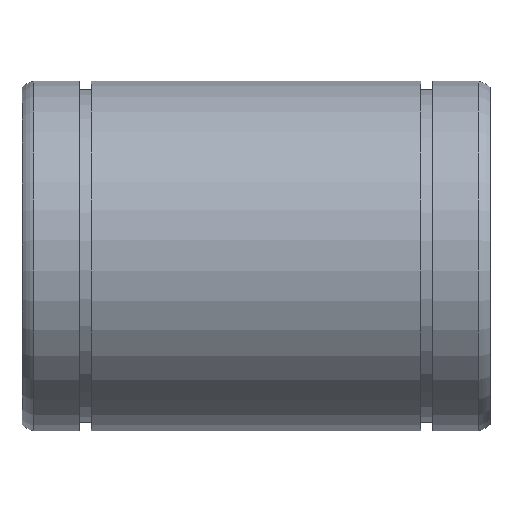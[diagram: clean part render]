
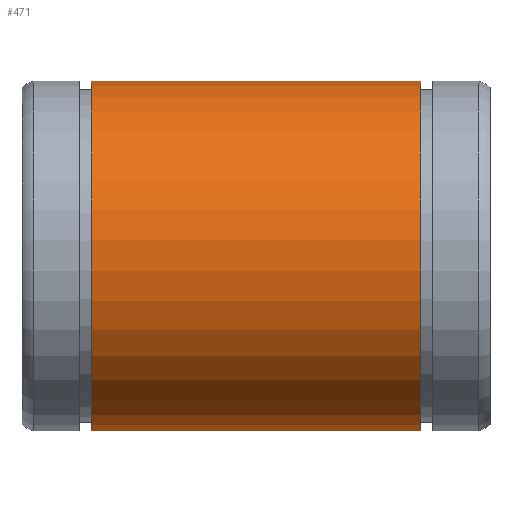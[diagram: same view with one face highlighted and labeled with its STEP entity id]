
A CAD part, top view. The second image highlights one B-rep face of the part: STEP entity #471.
In plain terms, the highlighted cylindrical face has radius 30 mm (diameter 60 mm), a partial arc.
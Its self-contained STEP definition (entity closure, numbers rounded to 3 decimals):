
#90=CARTESIAN_POINT('',(11.85,12.626,-27.214));
#91=VERTEX_POINT('',#90);
#98=CARTESIAN_POINT('',(68.15,12.626,-27.214));
#99=VERTEX_POINT('',#98);
#100=CARTESIAN_POINT('',(68.15,12.626,-27.214));
#101=DIRECTION('',(-1.0,0.0,0.0));
#102=VECTOR('',#101,56.3);
#103=LINE('',#100,#102);
#104=EDGE_CURVE('',#99,#91,#103,.T.);
#327=CARTESIAN_POINT('',(68.15,-12.626,-27.214));
#328=VERTEX_POINT('',#327);
#335=CARTESIAN_POINT('',(11.85,-12.626,-27.214));
#336=VERTEX_POINT('',#335);
#337=CARTESIAN_POINT('',(11.85,-12.626,-27.214));
#338=DIRECTION('',(1.0,0.0,0.0));
#339=VECTOR('',#338,56.3);
#340=LINE('',#337,#339);
#341=EDGE_CURVE('',#336,#328,#340,.T.);
#442=CARTESIAN_POINT('',(11.85,0.0,0.));
#443=DIRECTION('',(-1.0,0.0,0.0));
#444=DIRECTION('',(0.0,0.0,1.0));
#445=AXIS2_PLACEMENT_3D('',#442,#443,#444);
#446=CIRCLE('',#445,30.0);
#447=EDGE_CURVE('',#336,#91,#446,.T.);
#454=CARTESIAN_POINT('',(40.,0.0,0.));
#455=DIRECTION('',(-1.0,0.0,0.));
#456=DIRECTION('',(0.0,0.0,1.0));
#457=AXIS2_PLACEMENT_3D('',#454,#455,#456);
#458=CYLINDRICAL_SURFACE('',#457,30.);
#459=ORIENTED_EDGE('',*,*,#341,.T.);
#460=CARTESIAN_POINT('',(68.15,0.0,0.));
#461=DIRECTION('',(-1.0,0.0,0.0));
#462=DIRECTION('',(0.0,0.0,1.0));
#463=AXIS2_PLACEMENT_3D('',#460,#461,#462);
#464=CIRCLE('',#463,30.);
#465=EDGE_CURVE('',#328,#99,#464,.T.);
#466=ORIENTED_EDGE('',*,*,#465,.T.);
#467=ORIENTED_EDGE('',*,*,#104,.T.);
#468=ORIENTED_EDGE('',*,*,#447,.F.);
#469=EDGE_LOOP('',(#459,#466,#467,#468));
#470=FACE_OUTER_BOUND('',#469,.T.);
#471=ADVANCED_FACE('',(#470),#458,.T.);
